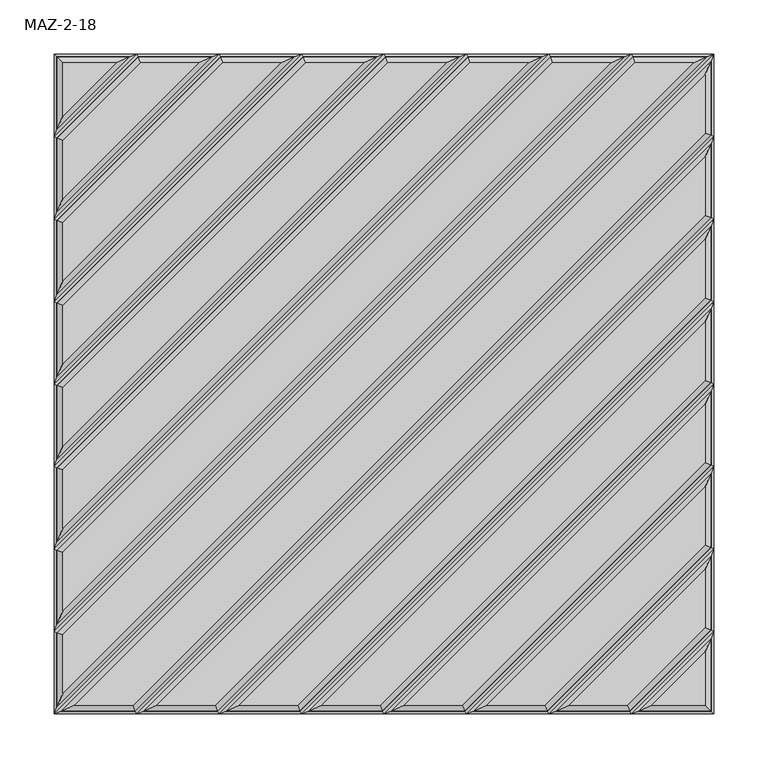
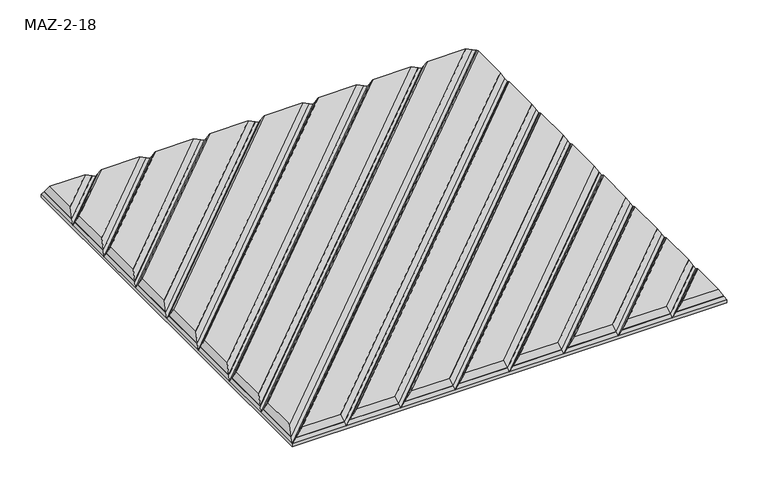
"""IFC4 building model written with IfcOpenShell, lengths in millimetres: proxy geometry, Turf_Wall Tile_Maze : MAZ-2-18."""

from ifc_helpers import new_model, si_unit, origin, place, context, project, spatial, faceted_brep, source, transform, mapped, element, save


def maz_2_18_823d9414(model_context):
    return source(origin(), model_context, "Body", "Brep", [
        faceted_brep([(-304.8, -304.8, 6.35), (-304.8, 304.8, 6.35), (304.8, 304.8, 6.35), (304.8, -304.8, 6.35), (-304.8, -304.8, 10.85), (-304.8, -278.8595745, 10.85), (-304.8, -228.6, 10.85), (-304.8, -152.4, 10.85), (-304.8, -76.2, 10.85), (-304.8, 0.0, 10.85), (-304.8, 76.2, 10.85), (-304.8, 152.4, 10.85), (-304.8, 228.6, 10.85), (-304.8, 304.8, 10.85), (304.8, -304.8, 10.85), (228.6, -304.8, 10.85), (152.4, -304.8, 10.85), (76.2, -304.8, 10.85), (0.0, -304.8, 10.85), (-76.2, -304.8, 10.85), (-152.4, -304.8, 10.85), (-228.6, -304.8, 10.85), (304.8, 304.8, 10.85), (304.8, 228.6, 10.85), (304.8, 152.4, 10.85), (304.8, 76.2, 10.85), (304.8, 0.0, 10.85), (304.8, -76.2, 10.85), (304.8, -152.4, 10.85), (304.8, -228.6, 10.85), (-228.6, 304.8, 10.85), (-152.4, 304.8, 10.85), (-76.2, 304.8, 10.85), (0.0, 304.8, 10.85), (76.2, 304.8, 10.85), (152.4, 304.8, 10.85), (228.6, 304.8, 10.85), (302.2019238, 298.5276892, 15.35), (-298.5276892, -302.2019238, 15.35), (298.5276892, 302.2019238, 15.35), (-302.2019238, -298.5276892, 15.35), (-302.2019238, 75.1238416, 15.35), (-75.1238416, 302.2019238, 15.35), (-302.2019238, 82.4723108, 15.35), (-82.4723108, 302.2019238, 15.35), (-302.2019238, -1.0761584, 15.35), (1.0761584, 302.2019238, 15.35), (-302.2019238, 6.2723108, 15.35), (-6.2723108, 302.2019238, 15.35), (-302.2019238, -229.6761584, 15.35), (229.6761584, 302.2019238, 15.35), (-302.2019238, -222.3276892, 15.35), (222.3276892, 302.2019238, 15.35), (-302.2019238, -278.8595745, 15.35), (-302.2019238, -153.4761584, 15.35), (153.4761584, 302.2019238, 15.35), (-302.2019238, -146.1276892, 15.35), (146.1276892, 302.2019238, 15.35), (-302.2019238, -77.2761584, 15.35), (77.2761584, 302.2019238, 15.35), (-302.2019238, -69.9276892, 15.35), (69.9276892, 302.2019238, 15.35), (-302.2019238, 227.5238416, 15.35), (-227.5238416, 302.2019238, 15.35), (-302.2019238, 234.8723108, 15.35), (-234.8723108, 302.2019238, 15.35), (-302.2019238, 302.2019238, 15.35), (-302.2019238, 151.3238416, 15.35), (-151.3238416, 302.2019238, 15.35), (-302.2019238, 158.6723108, 15.35), (-158.6723108, 302.2019238, 15.35), (302.2019238, -234.8723108, 15.35), (234.8723108, -302.2019238, 15.35), (302.2019238, -227.5238416, 15.35), (227.5238416, -302.2019238, 15.35), (302.2019238, -302.2019238, 15.35), (302.2019238, -158.6723108, 15.35), (158.6723108, -302.2019238, 15.35), (302.2019238, -151.3238416, 15.35), (151.3238416, -302.2019238, 15.35), (302.2019238, -82.4723108, 15.35), (82.4723108, -302.2019238, 15.35), (302.2019238, -75.1238416, 15.35), (75.1238416, -302.2019238, 15.35), (302.2019238, -6.2723108, 15.35), (6.2723108, -302.2019238, 15.35), (302.2019238, 1.0761584, 15.35), (-1.0761584, -302.2019238, 15.35), (302.2019238, 69.9276892, 15.35), (-69.9276892, -302.2019238, 15.35), (302.2019238, 77.2761584, 15.35), (-77.2761584, -302.2019238, 15.35), (302.2019238, 146.1276892, 15.35), (-146.1276892, -302.2019238, 15.35), (302.2019238, 153.4761584, 15.35), (-153.4761584, -302.2019238, 15.35), (302.2019238, 222.3276892, 15.35), (-222.3276892, -302.2019238, 15.35), (302.2019238, 229.6761584, 15.35), (-229.6761584, -302.2019238, 15.35)], [[[0, 1, 2, 3]], [[4, 5, 6, 7, 8, 9, 10, 11, 12, 13, 1, 0]], [[14, 15, 16, 17, 18, 19, 20, 21, 4, 0, 3]], [[22, 23, 24, 25, 26, 27, 28, 29, 14, 3, 2]], [[13, 30, 31, 32, 33, 34, 35, 36, 22, 2, 1]], [[37, 22, 4, 38]], [[22, 39, 40, 4]], [[10, 41, 42, 32]], [[43, 10, 32, 44]], [[9, 45, 46, 33]], [[47, 9, 33, 48]], [[48, 42, 41, 47]], [[6, 49, 50, 36]], [[51, 6, 36, 52]], [[49, 53, 40, 39, 50]], [[7, 54, 55, 35]], [[56, 7, 35, 57]], [[54, 51, 52, 55]], [[8, 58, 59, 34]], [[60, 8, 34, 61]], [[61, 46, 45, 60]], [[58, 56, 57, 59]], [[12, 62, 63, 30]], [[64, 12, 30, 65]], [[65, 66, 64]], [[11, 67, 68, 31]], [[69, 11, 31, 70]], [[70, 63, 62, 69]], [[67, 43, 44, 68]], [[71, 29, 15, 72]], [[29, 73, 74, 15]], [[72, 75, 71]], [[76, 28, 16, 77]], [[28, 78, 79, 16]], [[77, 74, 73, 76]], [[80, 27, 17, 81]], [[27, 82, 83, 17]], [[81, 79, 78, 80]], [[84, 26, 18, 85]], [[26, 86, 87, 18]], [[85, 83, 82, 84]], [[88, 25, 19, 89]], [[25, 90, 91, 19]], [[89, 87, 86, 88]], [[92, 24, 20, 93]], [[24, 94, 95, 20]], [[93, 91, 90, 92]], [[96, 23, 21, 97]], [[23, 98, 99, 21]], [[98, 37, 38, 99]], [[97, 95, 94, 96]], [[40, 53, 49, 6, 5, 4]], [[47, 41, 10, 9]], [[51, 54, 7, 6]], [[60, 45, 9, 8]], [[56, 58, 8, 7]], [[64, 66, 13, 12]], [[69, 62, 12, 11]], [[43, 67, 11, 10]], [[66, 65, 30, 13]], [[42, 48, 33, 32]], [[55, 52, 36, 35]], [[59, 57, 35, 34]], [[46, 61, 34, 33]], [[22, 36, 50, 39]], [[68, 44, 32, 31]], [[63, 70, 31, 30]], [[37, 98, 23, 22]], [[71, 75, 14, 29]], [[76, 73, 29, 28]], [[80, 78, 28, 27]], [[84, 82, 27, 26]], [[88, 86, 26, 25]], [[92, 90, 25, 24]], [[96, 94, 24, 23]], [[75, 72, 15, 14]], [[4, 21, 99, 38]], [[74, 77, 16, 15]], [[79, 81, 17, 16]], [[83, 85, 18, 17]], [[87, 89, 19, 18]], [[91, 93, 20, 19]], [[95, 97, 21, 20]]]),
        faceted_brep([(247.4169325, -297.0057714, 24.35), (297.0057714, -297.0057714, 24.35), (297.0057714, -247.4169325, 24.35), (302.2019238, -234.8723108, 15.35), (302.2019238, -302.2019238, 15.35), (234.8723108, -302.2019238, 15.35)], [[[0, 1, 2]], [[3, 4, 5]], [[0, 2, 3, 5]], [[4, 3, 2, 1]], [[1, 0, 5, 4]]]),
        faceted_brep([(302.2019238, -227.5238416, 15.35), (297.0057714, -225.3715248, 24.35), (225.3715248, -297.0057714, 24.35), (227.5238416, -302.2019238, 15.35), (171.2169325, -297.0057714, 24.35), (297.0057714, -171.2169325, 24.35), (302.2019238, -158.6723108, 15.35), (158.6723108, -302.2019238, 15.35)], [[[0, 1, 2, 3]], [[4, 2, 1, 5]], [[6, 0, 3, 7]], [[4, 5, 6, 7]], [[0, 6, 5, 1]], [[2, 4, 7, 3]]]),
        faceted_brep([(302.2019238, -151.3238416, 15.35), (297.0057714, -149.1715248, 24.35), (149.1715248, -297.0057714, 24.35), (151.3238416, -302.2019238, 15.35), (95.0169325, -297.0057714, 24.35), (297.0057714, -95.0169325, 24.35), (302.2019238, -82.4723108, 15.35), (82.4723108, -302.2019238, 15.35)], [[[0, 1, 2, 3]], [[4, 2, 1, 5]], [[6, 0, 3, 7]], [[4, 5, 6, 7]], [[0, 6, 5, 1]], [[2, 4, 7, 3]]]),
        faceted_brep([(302.2019238, -75.1238416, 15.35), (297.0057714, -72.9715248, 24.35), (72.9715248, -297.0057714, 24.35), (75.1238416, -302.2019238, 15.35), (18.8169325, -297.0057714, 24.35), (297.0057714, -18.8169325, 24.35), (302.2019238, -6.2723108, 15.35), (6.2723108, -302.2019238, 15.35)], [[[0, 1, 2, 3]], [[4, 2, 1, 5]], [[6, 0, 3, 7]], [[4, 5, 6, 7]], [[0, 6, 5, 1]], [[2, 4, 7, 3]]]),
        faceted_brep([(302.2019238, 1.0761584, 15.35), (297.0057714, 3.2284752, 24.35), (-3.2284752, -297.0057714, 24.35), (-1.0761584, -302.2019238, 15.35), (-57.3830675, -297.0057714, 24.35), (297.0057714, 57.3830675, 24.35), (302.2019238, 69.9276892, 15.35), (-69.9276892, -302.2019238, 15.35)], [[[0, 1, 2, 3]], [[4, 2, 1, 5]], [[6, 0, 3, 7]], [[4, 5, 6, 7]], [[0, 6, 5, 1]], [[2, 4, 7, 3]]]),
        faceted_brep([(302.2019238, 77.2761584, 15.35), (297.0057714, 79.4284752, 24.35), (-79.4284752, -297.0057714, 24.35), (-77.2761584, -302.2019238, 15.35), (-133.5830675, -297.0057714, 24.35), (297.0057714, 133.5830675, 24.35), (302.2019238, 146.1276892, 15.35), (-146.1276892, -302.2019238, 15.35)], [[[0, 1, 2, 3]], [[4, 2, 1, 5]], [[6, 0, 3, 7]], [[4, 5, 6, 7]], [[0, 6, 5, 1]], [[2, 4, 7, 3]]]),
        faceted_brep([(302.2019238, 153.4761584, 15.35), (297.0057714, 155.6284752, 24.35), (-155.6284752, -297.0057714, 24.35), (-153.4761584, -302.2019238, 15.35), (-209.7830675, -297.0057714, 24.35), (297.0057714, 209.7830675, 24.35), (302.2019238, 222.3276892, 15.35), (-222.3276892, -302.2019238, 15.35)], [[[0, 1, 2, 3]], [[4, 2, 1, 5]], [[6, 0, 3, 7]], [[4, 5, 6, 7]], [[0, 6, 5, 1]], [[2, 4, 7, 3]]]),
        faceted_brep([(-285.9830675, -297.0057714, 24.35), (297.0057714, 285.9830675, 24.35), (302.2019238, 298.5276892, 15.35), (-298.5276892, -302.2019238, 15.35), (297.0057714, 231.8284752, 24.35), (-231.8284752, -297.0057714, 24.35), (-229.6761584, -302.2019238, 15.35), (302.2019238, 229.6761584, 15.35)], [[[0, 1, 2, 3]], [[4, 1, 0, 5]], [[6, 3, 2, 7]], [[7, 4, 5, 6]], [[1, 4, 7, 2]], [[3, 6, 5, 0]]]),
        faceted_brep([(-247.4169325, 297.0057714, 24.35), (-297.0057714, 297.0057714, 24.35), (-297.0057714, 247.4169325, 24.35), (-302.2019238, 234.8723108, 15.35), (-302.2019238, 302.2019238, 15.35), (-234.8723108, 302.2019238, 15.35)], [[[0, 1, 2]], [[3, 4, 5]], [[2, 3, 5, 0]], [[4, 3, 2, 1]], [[1, 0, 5, 4]]]),
        faceted_brep([(-297.0057714, 225.3715248, 24.35), (-225.3715248, 297.0057714, 24.35), (-227.5238416, 302.2019238, 15.35), (-302.2019238, 227.5238416, 15.35), (-171.2169325, 297.0057714, 24.35), (-297.0057714, 171.2169325, 24.35), (-302.2019238, 158.6723108, 15.35), (-158.6723108, 302.2019238, 15.35)], [[[0, 1, 2, 3]], [[4, 1, 0, 5]], [[6, 3, 2, 7]], [[5, 6, 7, 4]], [[3, 6, 5, 0]], [[1, 4, 7, 2]]]),
        faceted_brep([(-297.0057714, 95.0169325, 24.35), (-302.2019238, 82.4723108, 15.35), (-82.4723108, 302.2019238, 15.35), (-95.0169325, 297.0057714, 24.35), (-297.0057714, 149.1715248, 24.35), (-149.1715248, 297.0057714, 24.35), (-151.3238416, 302.2019238, 15.35), (-302.2019238, 151.3238416, 15.35)], [[[0, 1, 2, 3]], [[4, 0, 3, 5]], [[6, 2, 1, 7]], [[4, 5, 6, 7]], [[0, 4, 7, 1]], [[2, 6, 5, 3]]]),
        faceted_brep([(-297.0057714, 72.9715248, 24.35), (-72.9715248, 297.0057714, 24.35), (-75.1238416, 302.2019238, 15.35), (-302.2019238, 75.1238416, 15.35), (-18.8169325, 297.0057714, 24.35), (-297.0057714, 18.8169325, 24.35), (-302.2019238, 6.2723108, 15.35), (-6.2723108, 302.2019238, 15.35)], [[[0, 1, 2, 3]], [[4, 1, 0, 5]], [[6, 3, 2, 7]], [[5, 6, 7, 4]], [[3, 6, 5, 0]], [[1, 4, 7, 2]]]),
        faceted_brep([(-297.0057714, -209.7830675, 24.35), (-302.2019238, -222.3276892, 15.35), (222.3276892, 302.2019238, 15.35), (209.7830675, 297.0057714, 24.35), (-297.0057714, -155.6284752, 24.35), (155.6284752, 297.0057714, 24.35), (153.4761584, 302.2019238, 15.35), (-302.2019238, -153.4761584, 15.35)], [[[0, 1, 2, 3]], [[4, 0, 3, 5]], [[6, 2, 1, 7]], [[4, 5, 6, 7]], [[0, 4, 7, 1]], [[2, 6, 5, 3]]]),
        faceted_brep([(-297.0057714, -133.5830675, 24.35), (-302.2019238, -146.1276892, 15.35), (146.1276892, 302.2019238, 15.35), (133.5830675, 297.0057714, 24.35), (-297.0057714, -79.4284752, 24.35), (79.4284752, 297.0057714, 24.35), (77.2761584, 302.2019238, 15.35), (-302.2019238, -77.2761584, 15.35)], [[[0, 1, 2, 3]], [[4, 0, 3, 5]], [[6, 2, 1, 7]], [[4, 5, 6, 7]], [[0, 4, 7, 1]], [[2, 6, 5, 3]]]),
        faceted_brep([(-297.0057714, -3.2284752, 24.35), (3.2284752, 297.0057714, 24.35), (1.0761584, 302.2019238, 15.35), (-302.2019238, -1.0761584, 15.35), (57.3830675, 297.0057714, 24.35), (-297.0057714, -57.3830675, 24.35), (-302.2019238, -69.9276892, 15.35), (69.9276892, 302.2019238, 15.35)], [[[0, 1, 2, 3]], [[4, 1, 0, 5]], [[6, 3, 2, 7]], [[5, 6, 7, 4]], [[3, 6, 5, 0]], [[1, 4, 7, 2]]]),
        faceted_brep([(298.5276892, 302.2019238, 15.35), (285.9830675, 297.0057714, 24.35), (-297.0057714, -285.9830675, 24.35), (-302.2019238, -298.5276892, 15.35), (-297.0057714, -231.8284752, 24.35), (-297.0057714, -278.8595745, 24.35), (231.8284752, 297.0057714, 24.35), (229.6761584, 302.2019238, 15.35), (-302.2019238, -278.8595745, 15.35), (-302.2019238, -229.6761584, 15.35)], [[[0, 1, 2, 3]], [[4, 5, 2, 1, 6]], [[7, 0, 3, 8, 9]], [[4, 6, 7, 9]], [[2, 5, 4, 9, 8, 3]], [[0, 7, 6, 1]]]),
    ])


if __name__ == "__main__":
    model = new_model("IFC4")
    model_context = context("Model", 3, world=origin())
    ifc_project = project(units=[si_unit("LENGTHUNIT", "METRE", prefix="MILLI")], contexts=[model_context])
    site = spatial("IfcSite", under=ifc_project)
    building = spatial("IfcBuilding", under=site)
    placement = place(None, origin())
    maz_2_18_shape = maz_2_18_823d9414(model_context)
    element("IfcBuildingElementProxy", 1, Name="Turf_Wall Tile_Maze : MAZ-2-18", ObjectType="Turf_Wall Tile_Maze : MAZ-2-18", at=placement, inside=building, context=model_context, shape_type="MappedRepresentation", body=[
        mapped(maz_2_18_shape, transform((0.0, 0.0, 0.0), x_axis=(1.0, 0.0, 0.0), y_axis=(0.0, 1.0, 0.0), z_axis=(0.0, 0.0, 1.0))),
    ])
    save(model, "model.ifc")
